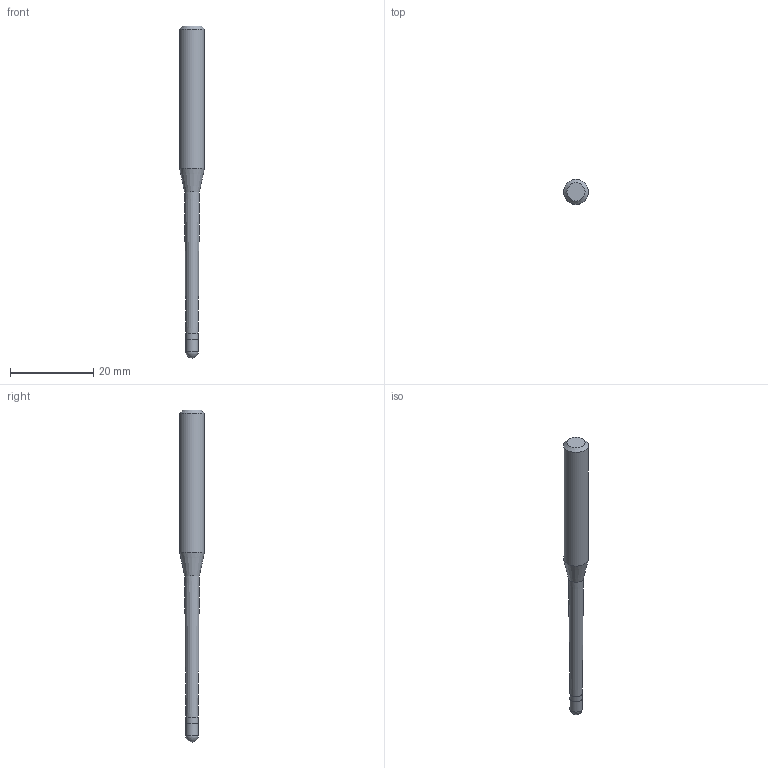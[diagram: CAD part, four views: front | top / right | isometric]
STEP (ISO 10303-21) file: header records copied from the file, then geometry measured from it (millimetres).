
FILE_DESCRIPTION((''),'2;1');
FILE_NAME('C:\Users\nsx150\AppData\Local\Temp\Mastercam 2021\E0ENTZRV18\TEMP.step','2021-09-02T09:57:15',(''),(''),'STEP Write','Mastercam 2021 ... CNC Software, Inc.','');
FILE_SCHEMA(('AUTOMOTIVE_DESIGN'));
Length unit declared in the file: millimetre
Products named in the file (1): None
Bounding box: 6 x 6 x 80 mm (x, y, z)
Volume: 1397.4 mm3; surface area: 1174.4 mm2
Topology: 2 solids, 2 shells, 10 faces, 16 edges, 9 vertices
Faces by surface type: plane 3, cylinder 3, cone 3, sphere 1
Full cylindrical faces by diameter (mm): 2.98 x1, 3 x1, 6 x1
Entity records: 232 total; most frequent: DIRECTION 40, CARTESIAN_POINT 28, AXIS2_PLACEMENT_3D 20, ORIENTED_EDGE 16, EDGE_LOOP 16, STYLED_ITEM 13, ADVANCED_FACE 10, FACE_BOUND 9
